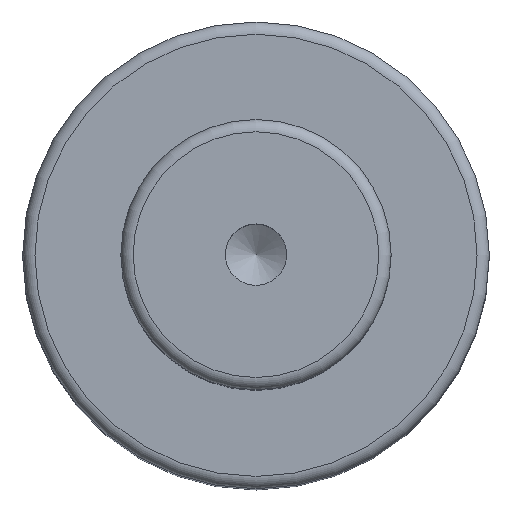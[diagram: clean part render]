
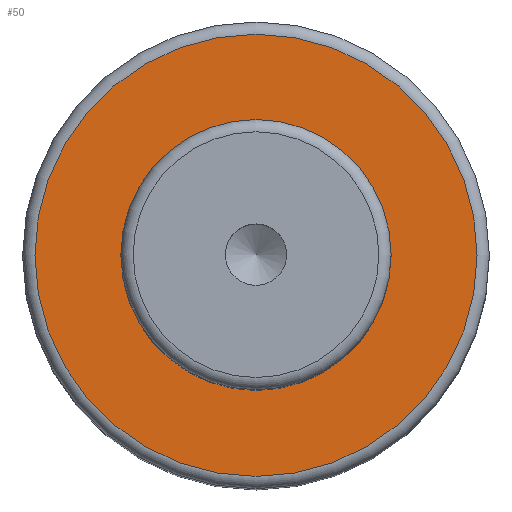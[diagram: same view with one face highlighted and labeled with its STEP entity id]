
A CAD part, top view. The second image highlights one B-rep face of the part: STEP entity #50.
In plain terms, the highlighted planar face has unit normal (0, 0, 1).
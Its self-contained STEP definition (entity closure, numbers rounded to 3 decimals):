
#40=PLANE('',#179);
#50=ADVANCED_FACE('',(#72,#73),#40,.F.);
#72=FACE_BOUND('',#96,.T.);
#73=FACE_BOUND('',#97,.T.);
#96=EDGE_LOOP('',(#118));
#97=EDGE_LOOP('',(#119));
#118=ORIENTED_EDGE('',*,*,#149,.F.);
#119=ORIENTED_EDGE('',*,*,#148,.T.);
#135=VERTEX_POINT('',#256);
#136=VERTEX_POINT('',#259);
#148=EDGE_CURVE('',#135,#135,#159,.T.);
#149=EDGE_CURVE('',#136,#136,#160,.T.);
#159=CIRCLE('',#176,11.);
#160=CIRCLE('',#178,18.);
#176=AXIS2_PLACEMENT_3D('',#255,#213,#214);
#178=AXIS2_PLACEMENT_3D('',#258,#217,#218);
#179=AXIS2_PLACEMENT_3D('',#260,#219,#220);
#213=DIRECTION('',(0.,0.,-1.));
#214=DIRECTION('',(-1.,0.,0.));
#217=DIRECTION('',(0.,0.,-1.));
#218=DIRECTION('',(-1.,0.,0.));
#219=DIRECTION('',(0.,0.,-1.));
#220=DIRECTION('',(-1.,0.,0.));
#255=CARTESIAN_POINT('',(0.,0.,61.));
#256=CARTESIAN_POINT('',(-11.,0.,61.));
#258=CARTESIAN_POINT('',(0.,0.,61.));
#259=CARTESIAN_POINT('',(-18.,0.,61.));
#260=CARTESIAN_POINT('',(11.,0.,61.));
